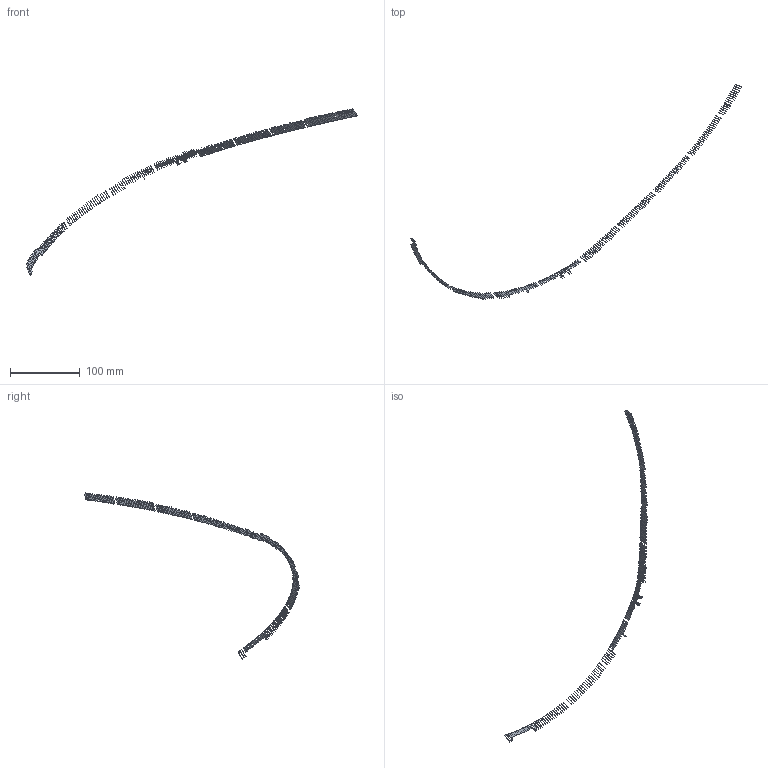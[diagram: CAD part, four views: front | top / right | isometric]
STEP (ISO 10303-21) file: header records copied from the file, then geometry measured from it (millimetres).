
FILE_DESCRIPTION(('FreeCAD Model'),'2;1');
FILE_NAME('Open CASCADE Shape Model','2022-05-22T07:50:32',('FreeCAD'),( 'FreeCAD'),'Open CASCADE STEP processor 7.5','FreeCAD','Unknown');
FILE_SCHEMA(('AUTOMOTIVE_DESIGN { 1 0 10303 214 1 1 1 1 }'));
Length unit declared in the file: millimetre
Products named in the file (214): Open CASCADE STEP translator 7.5 13; Open CASCADE STEP translator 7.5 13.1; Open CASCADE STEP translator 7.5 13.2; Open CASCADE STEP translator 7.5 13.3; Open CASCADE STEP translator 7.5 13.4; Open CASCADE STEP translator 7.5 13.5; Open CASCADE STEP translator 7.5 13.6; Open CASCADE STEP translator 7.5 13.7; Open CASCADE STEP translator 7.5 13.8; Open CASCADE STEP translator 7.5 13.9; Open CASCADE STEP translator 7.5 13.10; Open CASCADE STEP translator 7.5 13.11; Open CASCADE STEP translator 7.5 13.12; Open CASCADE STEP translator 7.5 13.13; Open CASCADE STEP translator 7.5 13.14; Open CASCADE STEP translator 7.5 13.15; Open CASCADE STEP translator 7.5 13.16; Open CASCADE STEP translator 7.5 13.17; Open CASCADE STEP translator 7.5 13.18; Open CASCADE STEP translator 7.5 13.19; Open CASCADE STEP translator 7.5 13.20; Open CASCADE STEP translator 7.5 13.21; Open CASCADE STEP translator 7.5 13.22; Open CASCADE STEP translator 7.5 13.23; Open CASCADE STEP translator 7.5 13.24; Open CASCADE STEP translator 7.5 13.25; Open CASCADE STEP translator 7.5 13.26; Open CASCADE STEP translator 7.5 13.27; Open CASCADE STEP translator 7.5 13.28; Open CASCADE STEP translator 7.5 13.29; Open CASCADE STEP translator 7.5 13.30; Open CASCADE STEP translator 7.5 13.31; Open CASCADE STEP translator 7.5 13.32; Open CASCADE STEP translator 7.5 13.33; Open CASCADE STEP translator 7.5 13.34; Open CASCADE STEP translator 7.5 13.35; Open CASCADE STEP translator 7.5 13.36; Open CASCADE STEP translator 7.5 13.37; Open CASCADE STEP translator 7.5 13.38; Open CASCADE STEP translator 7.5 13.39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
Assembly tree (213 placements, depth 2):
  Open CASCADE STEP translator 7.5 13
    Open CASCADE STEP translator 7.5 13.1
    Open CASCADE STEP translator 7.5 13.2
    Open CASCADE STEP translator 7.5 13.3
    Open CASCADE STEP translator 7.5 13.4
    Open CASCADE STEP translator 7.5 13.5
    Open CASCADE STEP translator 7.5 13.6
    Open CASCADE STEP translator 7.5 13.7
    Open CASCADE STEP translator 7.5 13.8
    Open CASCADE STEP translator 7.5 13.9
    Open CASCADE STEP translator 7.5 13.10
    Open CASCADE STEP translator 7.5 13.11
    Open CASCADE STEP translator 7.5 13.12
    Open CASCADE STEP translator 7.5 13.13
    Open CASCADE STEP translator 7.5 13.14
    Open CASCADE STEP translator 7.5 13.15
    Open CASCADE STEP translator 7.5 13.16
    Open CASCADE STEP translator 7.5 13.17
    Open CASCADE STEP translator 7.5 13.18
    Open CASCADE STEP translator 7.5 13.19
    Open CASCADE STEP translator 7.5 13.20
    Open CASCADE STEP translator 7.5 13.21
    Open CASCADE STEP translator 7.5 13.22
    Open CASCADE STEP translator 7.5 13.23
    Open CASCADE STEP translator 7.5 13.24
    Open CASCADE STEP translator 7.5 13.25
    Open CASCADE STEP translator 7.5 13.26
    Open CASCADE STEP translator 7.5 13.27
    Open CASCADE STEP translator 7.5 13.28
    Open CASCADE STEP translator 7.5 13.29
    Open CASCADE STEP translator 7.5 13.30
    Open CASCADE STEP translator 7.5 13.31
    Open CASCADE STEP translator 7.5 13.32
    Open CASCADE STEP translator 7.5 13.33
    Open CASCADE STEP translator 7.5 13.34
    Open CASCADE STEP translator 7.5 13.35
    Open CASCADE STEP translator 7.5 13.36
    Open CASCADE STEP translator 7.5 13.37
    Open CASCADE STEP translator 7.5 13.38
    Open CASCADE STEP translator 7.5 13.39
    Open CASCADE STEP translator 7.5 13.40
    Open CASCADE STEP translator 7.5 13.41
    Open CASCADE STEP translator 7.5 13.42
    Open CASCADE STEP translator 7.5 13.43
    Open CASCADE STEP translator 7.5 13.44
    Open CASCADE STEP translator 7.5 13.45
    Open CASCADE STEP translator 7.5 13.46
    Open CASCADE STEP translator 7.5 13.47
    Open CASCADE STEP translator 7.5 13.48
    Open CASCADE STEP translator 7.5 13.49
    Open CASCADE STEP translator 7.5 13.50
    Open CASCADE STEP translator 7.5 13.51
    Open CASCADE STEP translator 7.5 13.52
    Open CASCADE STEP translator 7.5 13.53
    Open CASCADE STEP translator 7.5 13.54
    Open CASCADE STEP translator 7.5 13.55
    Open CASCADE STEP translator 7.5 13.56
    Open CASCADE STEP translator 7.5 13.57
    Open CASCADE STEP translator 7.5 13.58
    Open CASCADE STEP translator 7.5 13.59
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Bounding box: 473.85 x 307.42 x 238.17 mm (x, y, z)
Surface area: 6439.5 mm2 (no closed solid volume)
Topology: 0 solids, 213 shells, 213 faces, 3341 edges, 3341 vertices
Faces by surface type: bspline 213
Entity records: 49413 total; most frequent: CARTESIAN_POINT 17771, B_SPLINE_CURVE_WITH_KNOTS 6682, ORIENTED_EDGE 3341, EDGE_CURVE 3341, VERTEX_POINT 3341, SURFACE_CURVE 3341, PCURVE 3341, DEFINITIONAL_REPRESENTATION 3341
